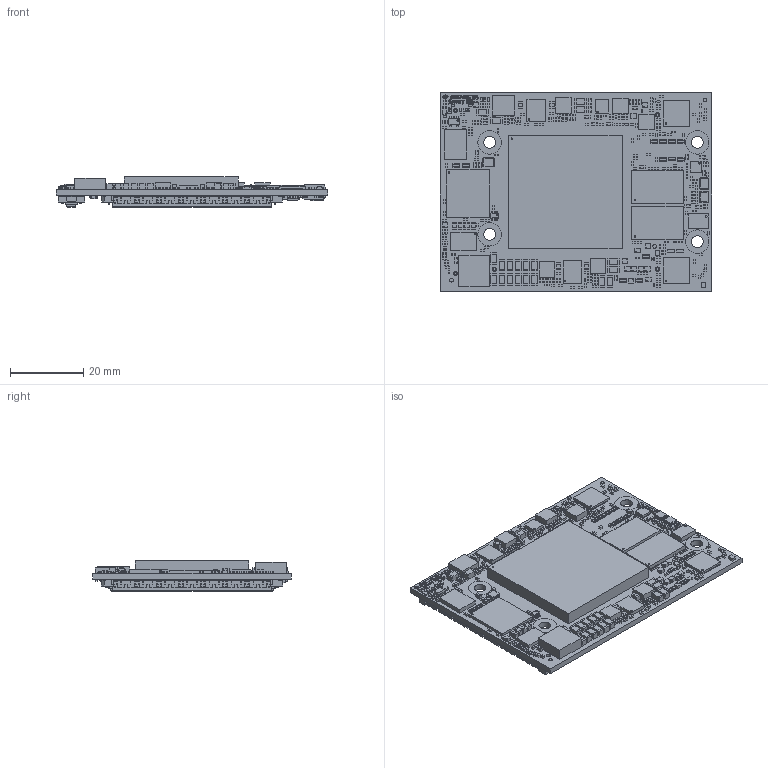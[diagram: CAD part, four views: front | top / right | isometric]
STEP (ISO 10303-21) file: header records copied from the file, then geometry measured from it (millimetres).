
FILE_DESCRIPTION(('Open CASCADE Model'),'2;1');
FILE_NAME('Open CASCADE Shape Model','2018-09-12T08:37:19',('Author'),( 'Open CASCADE'),'Open CASCADE STEP processor 6.8','Open CASCADE 6.8' ,'Unknown');
FILE_SCHEMA(('AUTOMOTIVE_DESIGN { 1 0 10303 214 1 1 1 1 }'));
Length unit declared in the file: millimetre
Products named in the file (786): --
Assembly tree (1366 placements, depth 5):
  --
    --
    --
      --
        --
        --
        --
      --
        --
        --
        --
        --
        --
        --
        --
    --
      --
        --
        --
        --
        --
        --
      --
        --
        --
        --
        --
        --
        --
        --
        --
        --
    --
      --
        --
    --
      --
    --
      --
    --
      --
    --
      --
        --
    --
      --
        --
    --
      --
        --
        --  x3
        --
    --
      --
        --
      --
        --
    --
      --
        --
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Bounding box: 73.8 x 54 x 8.26 mm (x, y, z)
Volume: 13238.7 mm3; surface area: 22731.8 mm2
Topology: 1678 solids, 1685 shells, 20982 faces, 49725 edges, 32642 vertices
Faces by surface type: plane 19370, extrusion 848, cylinder 643, bspline 49, sphere 48, torus 12, cone 12
Full cylindrical faces by diameter (mm): 0.2 x16, 0.3 x6, 0.4 x15, 1 x6, 1.1 x3, 1.2 x3, 3.2 x4
Entity records: 266550 total; most frequent: CARTESIAN_POINT 45556, ORIENTED_EDGE 35901, DIRECTION 32459, EDGE_CURVE 18054, VECTOR 16145, LINE 15306, VERTEX_POINT 11944, AXIS2_PLACEMENT_3D 8157
